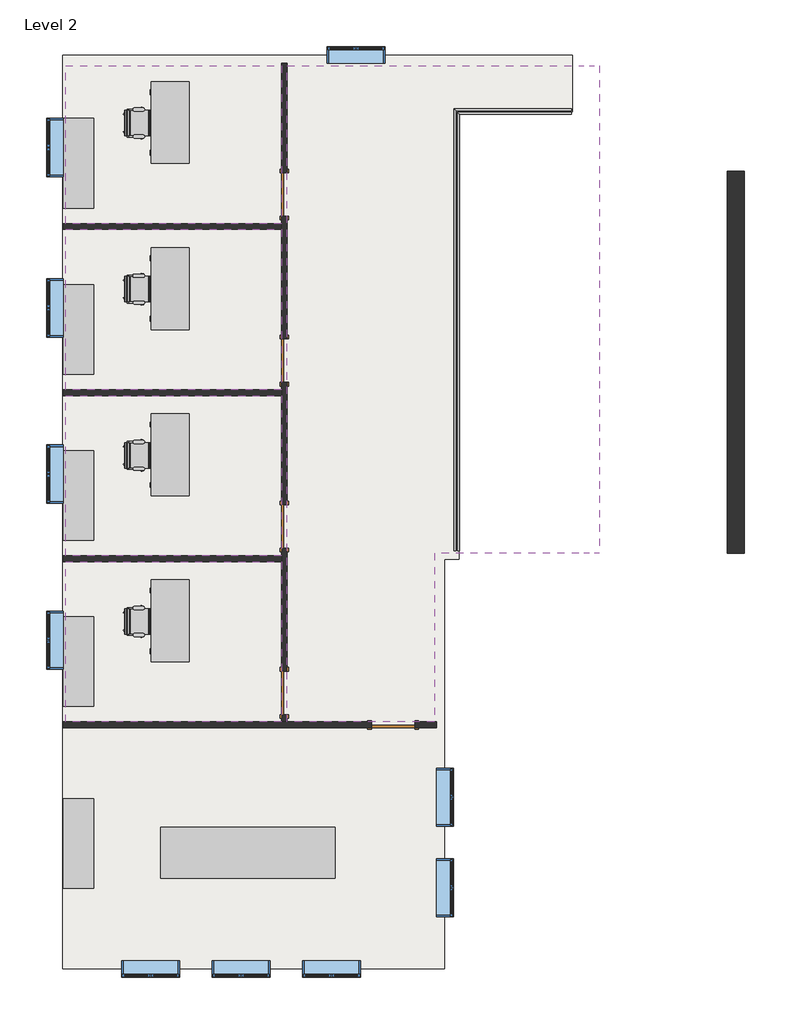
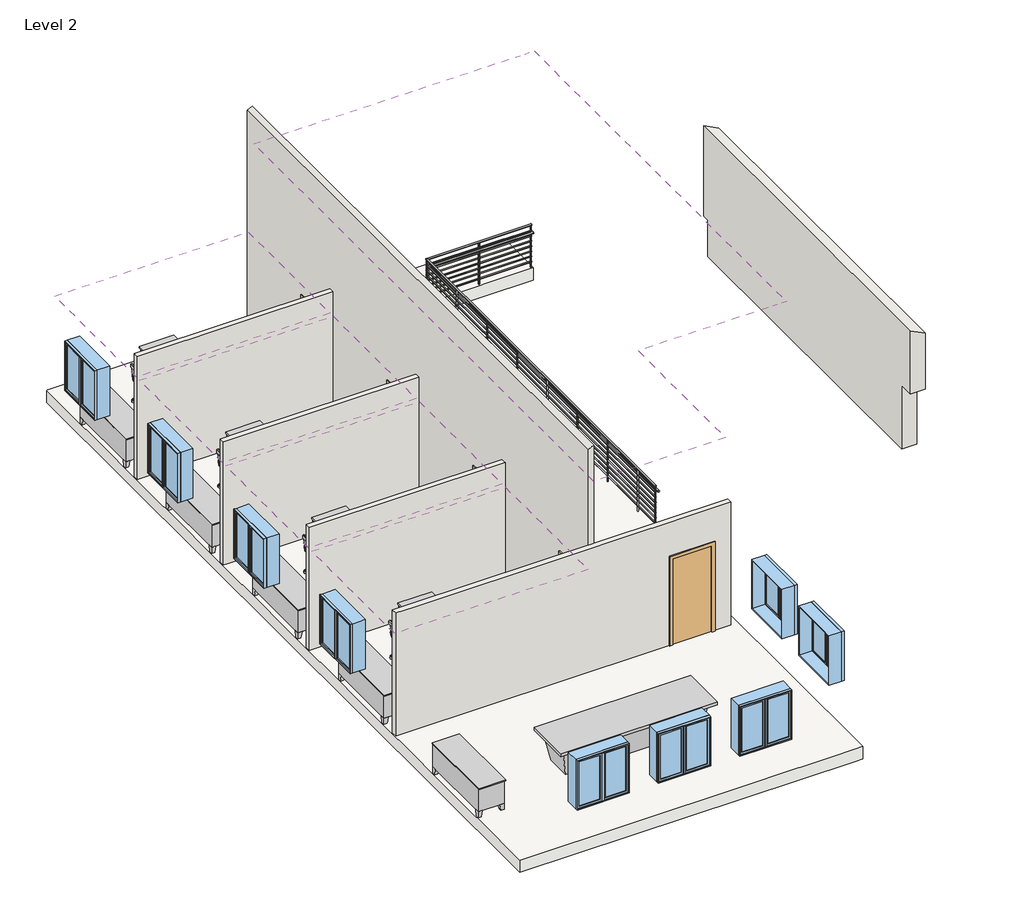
# One storey, incomplete: 14 furniture elements, 10 windows, 6 walls, 5 coverings, 5 doors, 1 railing, 1 slab.
"""IFC4 building model written with IfcOpenShell, lengths in millimetres."""

from ifc_helpers import new_model, si_unit, frame, origin, place, context, project, spatial, polyline, outline, extrude, faceted_brep, transform, mapped, element, save
from components import door_eb9f8b14, chair_task_arms_chair_task_arms_8395c10b, conference_table_complete_42_x_144_00e9c4b6, furniture_5a5a5c8e, furniture_9d33da18, guardrail_pipe_e0ddf7e3, window_75435c65

model = new_model("IFC4")

# Units and contexts
model_context = context("Model", 3, world=origin())
ifc_project = project(units=[si_unit("LENGTHUNIT", "METRE", prefix="MILLI")], contexts=[model_context])

# Site, building, storey
site = spatial("IfcSite", under=ifc_project)
building = spatial("IfcBuilding", under=site)
storey = spatial("IfcBuildingStorey", under=building, Name="Level 2", Elevation=3060.0)

# Coverings
placement = place(None, origin())
element("IfcCovering", 1, ObjectType="2' x 4' ACT System", at=placement, inside=storey, context=model_context, shape_type="SweptSolid", body=[
    extrude(outline(polyline([(-9011.7016552, 7211.1980424), (-13532.9016552, 7211.1980424), (-13532.9016552, 10517.9605424), (-9011.7016552, 10517.9605424), (-9011.7016552, 7211.1980424)])), frame((0.0, 0.0, 5498.4), z_axis=(0.0, 0.0, 1.0), x_axis=(1.0, 0.0, 0.0)), (0.0, 0.0, 1.0), 57.15),
])
element("IfcCovering", 2, ObjectType="2' x 4' ACT System", at=placement, inside=storey, context=model_context, shape_type="SweptSolid", body=[
    extrude(outline(polyline([(-9011.7016552, 3729.8105424), (-13532.9016552, 3729.8105424), (-13532.9016552, 7087.3730424), (-9011.7016552, 7087.3730424), (-9011.7016552, 3729.8105424)])), frame((0.0, 0.0, 5498.4), z_axis=(0.0, 0.0, 1.0), x_axis=(1.0, 0.0, 0.0)), (0.0, 0.0, 1.0), 57.15),
])
element("IfcCovering", 3, ObjectType="2' x 4' ACT System", at=placement, inside=storey, context=model_context, shape_type="SweptSolid", body=[
    extrude(outline(polyline([(-9011.7016552, 248.4230424), (-13532.9016552, 248.4230424), (-13532.9016552, 3605.9855424), (-9011.7016552, 3605.9855424), (-9011.7016552, 248.4230424)])), frame((0.0, 0.0, 5498.4), z_axis=(0.0, 0.0, 1.0), x_axis=(1.0, 0.0, 0.0)), (0.0, 0.0, 1.0), 57.15),
])
element("IfcCovering", 4, ObjectType="2' x 4' ACT System", at=placement, inside=storey, context=model_context, shape_type="SweptSolid", body=[
    extrude(outline(polyline([(-9011.7016552, -3232.9644576), (-13532.9016552, -3232.9644576), (-13532.9016552, 124.5980424), (-9011.7016552, 124.5980424), (-9011.7016552, -3232.9644576)])), frame((0.0, 0.0, 5498.4), z_axis=(0.0, 0.0, 1.0), x_axis=(1.0, 0.0, 0.0)), (0.0, 0.0, 1.0), 57.15),
])
element("IfcCovering", 5, ObjectType="5/8\" GWB on Mtl. Stud", at=placement, inside=storey, context=model_context, shape_type="Brep", body=[
    faceted_brep([(-2339.5447142, 10517.9605424, 7739.95), (-2772.9516552, 10517.9605424, 7739.95), (-8887.8766552, 10517.9605424, 7739.95), (-8887.8766552, -3232.9644576, 7739.95), (-5804.9516552, -3232.9644576, 7739.95), (-5804.9516552, 307.1605424, 7739.95), (-2772.9516552, 307.1605424, 7739.95), (-2339.5447142, 307.1605424, 7739.95), (-2339.5447142, 10517.9605424, 7632.0), (-2339.5447142, 307.1605424, 7632.0), (-2557.0516552, 307.1605424, 7632.0), (-5804.9516552, 307.1605424, 7632.0), (-5804.9516552, -3232.9644576, 7632.0), (-8887.8766552, -3232.9644576, 7632.0), (-8887.8766552, 10517.9605424, 7632.0), (-2557.0516552, 10517.9605424, 7632.0)], [[[0, 1, 2, 3, 4, 5, 6, 7]], [[8, 9, 10, 11, 12, 13, 14, 15]], [[2, 1, 0, 8, 15, 14]], [[3, 2, 14, 13]], [[4, 3, 13, 12]], [[5, 4, 12, 11]], [[7, 6, 5, 11, 10, 9]], [[0, 7, 9, 8]]]),
])

# Doors
door_shape = door_eb9f8b14(model_context)
element("IfcDoor", 6, ObjectType="Single-Flush : 36\" x 84\"", at=placement, inside=storey, context=model_context, shape_type="MappedRepresentation", body=[
    mapped(door_shape, transform((-6668.5516552, -3294.8769576, 3060.0), x_axis=(1.0, 0.0, 0.0), y_axis=(0.0, 1.0, 0.0), z_axis=(0.0, 0.0, 1.0))),
])
element("IfcDoor", 7, ObjectType="Single-Flush : 36\" x 84\"", at=placement, inside=storey, context=model_context, shape_type="MappedRepresentation", body=[
    mapped(door_shape, transform((-8949.7891552, -2623.3644576, 3060.0), x_axis=(0.0, -1.0, 0.0), y_axis=(1.0, 0.0, 0.0), z_axis=(0.0, 0.0, 1.0))),
])
element("IfcDoor", 8, ObjectType="Single-Flush : 36\" x 84\"", at=placement, inside=storey, context=model_context, shape_type="MappedRepresentation", body=[
    mapped(door_shape, transform((-8949.7891552, 862.7855424, 3060.0), x_axis=(0.0, -1.0, 0.0), y_axis=(1.0, 0.0, 0.0), z_axis=(0.0, 0.0, 1.0))),
])
element("IfcDoor", 9, ObjectType="Single-Flush : 36\" x 84\"", at=placement, inside=storey, context=model_context, shape_type="MappedRepresentation", body=[
    mapped(door_shape, transform((-8949.7891552, 4339.4105424, 3060.0), x_axis=(0.0, -1.0, 0.0), y_axis=(1.0, 0.0, 0.0), z_axis=(0.0, 0.0, 1.0))),
])
element("IfcDoor", 10, ObjectType="Single-Flush : 36\" x 84\"", at=placement, inside=storey, context=model_context, shape_type="MappedRepresentation", body=[
    mapped(door_shape, transform((-8949.7891552, 7820.7980424, 3060.0), x_axis=(0.0, -1.0, 0.0), y_axis=(1.0, 0.0, 0.0), z_axis=(0.0, 0.0, 1.0))),
])

# Furniture
chair_task_arms_chair_task_arms_shape = chair_task_arms_chair_task_arms_8395c10b(model_context)
element("IfcFurniture", 11, ObjectType="Chair-Task Arms : Chair-Task Arms", at=placement, inside=storey, context=model_context, shape_type="MappedRepresentation", body=[
    mapped(chair_task_arms_chair_task_arms_shape, transform((-12048.1356286, -1267.3427772, 3060.0), x_axis=(0.0, 1.0, 0.0), y_axis=(-1.0, 0.0, 0.0), z_axis=(0.0, 0.0, 1.0))),
])
element("IfcFurniture", 12, ObjectType="Chair-Task Arms : Chair-Task Arms", at=placement, inside=storey, context=model_context, shape_type="MappedRepresentation", body=[
    mapped(chair_task_arms_chair_task_arms_shape, transform((-12048.1356286, 2214.0447228, 3060.0), x_axis=(0.0, 1.0, 0.0), y_axis=(-1.0, 0.0, 0.0), z_axis=(0.0, 0.0, 1.0))),
])
element("IfcFurniture", 13, ObjectType="Chair-Task Arms : Chair-Task Arms", at=placement, inside=storey, context=model_context, shape_type="MappedRepresentation", body=[
    mapped(chair_task_arms_chair_task_arms_shape, transform((-12048.1356286, 5695.4322228, 3060.0), x_axis=(0.0, 1.0, 0.0), y_axis=(-1.0, 0.0, 0.0), z_axis=(0.0, 0.0, 1.0))),
])
element("IfcFurniture", 14, ObjectType="Chair-Task Arms : Chair-Task Arms", at=placement, inside=storey, context=model_context, shape_type="MappedRepresentation", body=[
    mapped(chair_task_arms_chair_task_arms_shape, transform((-12048.1356286, 9176.8197228, 3060.0), x_axis=(0.0, 1.0, 0.0), y_axis=(-1.0, 0.0, 0.0), z_axis=(0.0, 0.0, 1.0))),
])
conference_table_complete_42_x_144_shape = conference_table_complete_42_x_144_00e9c4b6(model_context)
element("IfcFurniture", 15, ObjectType="Conference Table-Complete : 42 x 144", at=placement, inside=storey, context=model_context, shape_type="MappedRepresentation", body=[
    mapped(conference_table_complete_42_x_144_shape, transform((-9715.5836955, -5969.8356111, 3060.0), x_axis=(1.0, 0.0, 0.0), y_axis=(0.0, 1.0, 0.0), z_axis=(0.0, 0.0, 1.0))),
])
furniture_shape = furniture_5a5a5c8e(model_context)
element("IfcFurniture", 16, ObjectType="Credenza : 72\" x 24\"", at=placement, inside=storey, context=model_context, shape_type="MappedRepresentation", body=[
    mapped(furniture_shape, transform((-13274.3213273, -1908.6485326, 3060.0), x_axis=(0.0, -1.0, 0.0), y_axis=(1.0, 0.0, 0.0), z_axis=(0.0, 0.0, 1.0))),
])
element("IfcFurniture", 17, ObjectType="Credenza : 72\" x 24\"", at=placement, inside=storey, context=model_context, shape_type="MappedRepresentation", body=[
    mapped(furniture_shape, transform((-13274.3213273, -5718.6485326, 3060.0), x_axis=(0.0, -1.0, 0.0), y_axis=(1.0, 0.0, 0.0), z_axis=(0.0, 0.0, 1.0))),
])
element("IfcFurniture", 18, ObjectType="Credenza : 72\" x 24\"", at=placement, inside=storey, context=model_context, shape_type="MappedRepresentation", body=[
    mapped(furniture_shape, transform((-13274.3213273, 1572.7389674, 3060.0), x_axis=(0.0, -1.0, 0.0), y_axis=(1.0, 0.0, 0.0), z_axis=(0.0, 0.0, 1.0))),
])
element("IfcFurniture", 19, ObjectType="Credenza : 72\" x 24\"", at=placement, inside=storey, context=model_context, shape_type="MappedRepresentation", body=[
    mapped(furniture_shape, transform((-13274.3213273, 5054.1264674, 3060.0), x_axis=(0.0, -1.0, 0.0), y_axis=(1.0, 0.0, 0.0), z_axis=(0.0, 0.0, 1.0))),
])
element("IfcFurniture", 20, ObjectType="Credenza : 72\" x 24\"", at=placement, inside=storey, context=model_context, shape_type="MappedRepresentation", body=[
    mapped(furniture_shape, transform((-13274.3213273, 8535.5139674, 3060.0), x_axis=(0.0, -1.0, 0.0), y_axis=(1.0, 0.0, 0.0), z_axis=(0.0, 0.0, 1.0))),
])
furniture_2_shape = furniture_9d33da18(model_context)
element("IfcFurniture", 21, ObjectType="Desk1 : 66\" x 30\"", at=placement, inside=storey, context=model_context, shape_type="MappedRepresentation", body=[
    mapped(furniture_2_shape, transform((-10962.389727, -275.4519576, 3060.0), x_axis=(0.0, -1.0, 0.0), y_axis=(1.0, 0.0, 0.0), z_axis=(0.0, 0.0, 1.0))),
])
element("IfcFurniture", 22, ObjectType="Desk1 : 66\" x 30\"", at=placement, inside=storey, context=model_context, shape_type="MappedRepresentation", body=[
    mapped(furniture_2_shape, transform((-10962.389727, 3205.9355424, 3060.0), x_axis=(0.0, -1.0, 0.0), y_axis=(1.0, 0.0, 0.0), z_axis=(0.0, 0.0, 1.0))),
])
element("IfcFurniture", 23, ObjectType="Desk1 : 66\" x 30\"", at=placement, inside=storey, context=model_context, shape_type="MappedRepresentation", body=[
    mapped(furniture_2_shape, transform((-10962.389727, 6687.3230424, 3060.0), x_axis=(0.0, -1.0, 0.0), y_axis=(1.0, 0.0, 0.0), z_axis=(0.0, 0.0, 1.0))),
])
element("IfcFurniture", 24, ObjectType="Desk1 : 66\" x 30\"", at=placement, inside=storey, context=model_context, shape_type="MappedRepresentation", body=[
    mapped(furniture_2_shape, transform((-10962.389727, 10168.7105424, 3060.0), x_axis=(0.0, -1.0, 0.0), y_axis=(1.0, 0.0, 0.0), z_axis=(0.0, 0.0, 1.0))),
])

# Railing
guardrail_pipe_shape = guardrail_pipe_e0ddf7e3(model_context)
element("IfcRailing", 25, ObjectType="Guardrail - Pipe", at=placement, inside=storey, context=model_context, shape_type="MappedRepresentation", body=[
    mapped(guardrail_pipe_shape, transform((0.0, 0.0, 0.0), x_axis=(1.0, 0.0, 0.0), y_axis=(0.0, 1.0, 0.0), z_axis=(0.0, 0.0, 1.0))),
])

# Slab
element("IfcSlab", 26, ObjectType="Generic - 12\"", at=placement, inside=storey, context=model_context, shape_type="Brep", body=[
    faceted_brep([(-13596.4016552, 10733.8605424, 2755.2), (-13583.7016552, 10733.8605424, 2755.2), (-5093.7516552, 10733.8605424, 2755.2), (-2909.3516552, 10733.8605424, 2755.2), (-2909.3516552, 9554.527236, 2755.2), (-5284.2516552, 9554.527236, 2755.2), (-5284.2516552, 175.3980424, 2755.2), (-5401.7266552, 175.3980424, 2755.2), (-5589.0516552, 175.3980424, 2755.2), (-5589.0516552, -8398.6894576, 2755.2), (-5754.1516552, -8398.6894576, 2755.2), (-13596.4016552, -8398.6894576, 2755.2), (-13596.4016552, -8233.5894576, 2755.2), (-13596.4016552, 10733.8605424, 3060.0), (-13596.4016552, -8233.5894576, 3060.0), (-13596.4016552, -8398.6894576, 3060.0), (-5754.1516552, -8398.6894576, 3060.0), (-5589.0516552, -8398.6894576, 3060.0), (-5589.0516552, 175.3980424, 3060.0), (-5401.7266552, 175.3980424, 3060.0), (-5284.2516552, 175.3980424, 3060.0), (-5284.2516552, 9554.527236, 3060.0), (-2909.3516552, 9554.527236, 3060.0), (-2909.3516552, 10733.8605424, 3060.0), (-5093.7516552, 10733.8605424, 3060.0), (-13583.7016552, 10733.8605424, 3060.0)], [[[0, 1, 2, 3, 4, 5, 6, 7, 8, 9, 10, 11, 12]], [[13, 14, 15, 16, 17, 18, 19, 20, 21, 22, 23, 24, 25]], [[3, 2, 1, 0, 13, 25, 24, 23]], [[4, 3, 23, 22]], [[5, 4, 22, 21]], [[6, 5, 21, 20]], [[8, 7, 6, 20, 19, 18]], [[9, 8, 18, 17]], [[11, 10, 9, 17, 16, 15]], [[0, 12, 11, 15, 14, 13]]]),
])

# Walls
element("IfcWall", 27, ObjectType="Exterior - Brick on Mtl. Stud", at=placement, inside=storey, context=model_context, shape_type="Brep", body=[
    faceted_brep([(341.8483448, 8130.3605424, 3060.0), (341.8483448, 2791.5980424, 3060.0), (341.8483448, 300.8105424, 3060.0), (341.8483448, 300.8105424, 3900.0), (341.8483448, 300.8105424, 4627.075), (341.8483448, -51.6144576, 4627.075), (341.8483448, -51.6144576, 6182.55), (341.8483448, 300.8105424, 6182.55), (341.8483448, 8306.5730424, 6182.55), (341.8483448, 8306.5730424, 3958.7375), (341.8483448, 8130.3605424, 3958.7375), (694.2733448, 8130.3605424, 3060.0), (694.2733448, 8130.3605424, 3958.7375), (694.2733448, 8306.5730424, 3958.7375), (694.2733448, 8306.5730424, 6006.3375), (694.2733448, -51.6144576, 6006.3375), (694.2733448, -51.6144576, 4627.075), (694.2733448, 300.8105424, 4627.075), (694.2733448, 300.8105424, 3060.0), (465.6733448, 8130.3605424, 3060.0), (545.0483448, 8130.3605424, 3060.0)], [[[0, 1, 2, 3, 4, 5, 6, 7, 8, 9, 10]], [[11, 12, 13, 14, 15, 16, 17, 18]], [[2, 1, 0, 19, 20, 11, 18]], [[8, 7, 6, 15, 14]], [[9, 8, 14, 13]], [[9, 13, 12, 10]], [[0, 10, 12, 11, 20, 19]], [[16, 5, 4, 17]], [[4, 3, 2, 18, 17]], [[6, 5, 16, 15]]]),
])
element("IfcWall", 28, ObjectType="Interior - 4 7/8\" Partition (1-hr)", at=placement, inside=storey, context=model_context, shape_type="Brep", body=[
    faceted_brep([(-8887.8766552, 4796.6105424, 3060.0), (-8887.8766552, 7363.5980424, 3060.0), (-8887.8766552, 7363.5980424, 5193.6), (-8887.8766552, 8277.9980424, 5193.6), (-8887.8766552, 8277.9980424, 3060.0), (-8887.8766552, 10568.7605424, 3060.0), (-8887.8766552, 10568.7605424, 8530.4625), (-8887.8766552, -3232.9644576, 8530.4625), (-8887.8766552, -3232.9644576, 3060.0), (-8887.8766552, -3080.5644576, 3060.0), (-8887.8766552, -3080.5644576, 5193.6), (-8887.8766552, -2166.1644576, 5193.6), (-8887.8766552, -2166.1644576, 3060.0), (-8887.8766552, 405.5855424, 3060.0), (-8887.8766552, 405.5855424, 5193.6), (-8887.8766552, 1319.9855424, 5193.6), (-8887.8766552, 1319.9855424, 3060.0), (-8887.8766552, 3882.2105424, 3060.0), (-8887.8766552, 3882.2105424, 5193.6), (-8887.8766552, 4796.6105424, 5193.6), (-9011.7016552, 7363.5980424, 5193.6), (-9011.7016552, 7363.5980424, 3060.0), (-9011.7016552, 7211.1980424, 3060.0), (-9011.7016552, 7087.3730424, 3060.0), (-9011.7016552, 4796.6105424, 3060.0), (-9011.7016552, 4796.6105424, 5193.6), (-9011.7016552, 3882.2105424, 5193.6), (-9011.7016552, 3882.2105424, 3060.0), (-9011.7016552, 3729.8105424, 3060.0), (-9011.7016552, 3605.9855424, 3060.0), (-9011.7016552, 1319.9855424, 3060.0), (-9011.7016552, 1319.9855424, 5193.6), (-9011.7016552, 405.5855424, 5193.6), (-9011.7016552, 405.5855424, 3060.0), (-9011.7016552, 248.4230424, 3060.0), (-9011.7016552, 124.5980424, 3060.0), (-9011.7016552, -2166.1644576, 3060.0), (-9011.7016552, -2166.1644576, 5193.6), (-9011.7016552, -3080.5644576, 5193.6), (-9011.7016552, -3080.5644576, 3060.0), (-9011.7016552, -3232.9644576, 3060.0), (-9011.7016552, -3232.9644576, 8468.55), (-9011.7016552, 10568.7605424, 8468.55), (-9011.7016552, 10568.7605424, 3060.0), (-9011.7016552, 8277.9980424, 3060.0), (-9011.7016552, 8277.9980424, 5193.6)], [[[0, 1, 2, 3, 4, 5, 6, 7, 8, 9, 10, 11, 12, 13, 14, 15, 16, 17, 18, 19]], [[20, 21, 22, 23, 24, 25, 26, 27, 28, 29, 30, 31, 32, 33, 34, 35, 36, 37, 38, 39, 40, 41, 42, 43, 44, 45]], [[40, 39, 9, 8]], [[36, 35, 34, 33, 13, 12]], [[30, 29, 28, 27, 17, 16]], [[44, 43, 5, 4]], [[24, 23, 22, 21, 1, 0]], [[8, 7, 41, 40]], [[10, 9, 39, 38]], [[11, 10, 38, 37]], [[12, 11, 37, 36]], [[14, 13, 33, 32]], [[15, 14, 32, 31]], [[16, 15, 31, 30]], [[18, 17, 27, 26]], [[19, 18, 26, 25]], [[0, 19, 25, 24]], [[2, 1, 21, 20]], [[3, 2, 20, 45]], [[4, 3, 45, 44]], [[7, 6, 42, 41]], [[6, 5, 43, 42]]]),
])
element("IfcWall", 29, ObjectType="Interior - 4 7/8\" Partition (1-hr)", at=placement, inside=storey, context=model_context, shape_type="Brep", body=[
    faceted_brep([(-6211.3516552, -3356.7894576, 5193.6), (-6211.3516552, -3356.7894576, 3060.0), (-5754.1516552, -3356.7894576, 3060.0), (-5754.1516552, -3356.7894576, 6100.0), (-13170.9516552, -3356.7894576, 6100.0), (-13583.7016552, -3356.7894576, 6100.0), (-13583.7016552, -3356.7894576, 3060.0), (-13170.9516552, -3356.7894576, 3060.0), (-7125.7516552, -3356.7894576, 3060.0), (-7125.7516552, -3356.7894576, 5193.6), (-5754.1516552, -3232.9644576, 3060.0), (-6211.3516552, -3232.9644576, 3060.0), (-6211.3516552, -3232.9644576, 5193.6), (-7125.7516552, -3232.9644576, 5193.6), (-7125.7516552, -3232.9644576, 3060.0), (-8887.8766552, -3232.9644576, 3060.0), (-9011.7016552, -3232.9644576, 3060.0), (-13170.9516552, -3232.9644576, 3060.0), (-13583.7016552, -3232.9644576, 3060.0), (-13583.7016552, -3232.9644576, 6100.0), (-13170.9516552, -3232.9644576, 6100.0), (-5754.1516552, -3232.9644576, 6100.0)], [[[0, 1, 2, 3, 4, 5, 6, 7, 8, 9]], [[10, 11, 12, 13, 14, 15, 16, 17, 18, 19, 20, 21]], [[2, 1, 11, 10]], [[8, 7, 6, 18, 17, 16, 15, 14]], [[5, 4, 3, 21, 20, 19]], [[12, 11, 1, 0]], [[13, 12, 0, 9]], [[14, 13, 9, 8]], [[3, 2, 10, 21]], [[6, 5, 19, 18]]]),
])
element("IfcWall", 30, ObjectType="Interior - 4 7/8\" Partition (1-hr)", at=placement, inside=storey, context=model_context, shape_type="SweptSolid", body=[
    extrude(outline(polyline([(-9011.7016552, 124.5980424), (-13583.7016552, 124.5980424), (-13583.7016552, 248.4230424), (-9011.7016552, 248.4230424), (-9011.7016552, 124.5980424)])), frame((0.0, 0.0, 3060.0), z_axis=(0.0, 0.0, 1.0), x_axis=(1.0, 0.0, 0.0)), (0.0, 0.0, 1.0), 3040.0),
])
element("IfcWall", 31, ObjectType="Interior - 4 7/8\" Partition (1-hr)", at=placement, inside=storey, context=model_context, shape_type="Brep", body=[
    faceted_brep([(-13583.7016552, 3605.9855424, 3060.0), (-13170.9516552, 3605.9855424, 3060.0), (-9011.7016552, 3605.9855424, 3060.0), (-9011.7016552, 3605.9855424, 6100.0), (-13170.9516552, 3605.9855424, 6100.0), (-13583.7016552, 3605.9855424, 6100.0), (-13583.7016552, 3729.8105424, 3060.0), (-13583.7016552, 3729.8105424, 6100.0), (-13170.9516552, 3729.8105424, 6100.0), (-9011.7016552, 3729.8105424, 6100.0), (-9011.7016552, 3729.8105424, 3060.0), (-13170.9516552, 3729.8105424, 3060.0)], [[[0, 1, 2, 3, 4, 5]], [[6, 7, 8, 9, 10, 11]], [[2, 1, 0, 6, 11, 10]], [[5, 4, 3, 9, 8, 7]], [[3, 2, 10, 9]], [[0, 5, 7, 6]]]),
])
element("IfcWall", 32, ObjectType="Interior - 4 7/8\" Partition (1-hr)", at=placement, inside=storey, context=model_context, shape_type="SweptSolid", body=[
    extrude(outline(polyline([(-9011.7016552, 7087.3730424), (-13583.7016552, 7087.3730424), (-13583.7016552, 7211.1980424), (-9011.7016552, 7211.1980424), (-9011.7016552, 7087.3730424)])), frame((0.0, 0.0, 3060.0), z_axis=(0.0, 0.0, 1.0), x_axis=(1.0, 0.0, 0.0)), (0.0, 0.0, 1.0), 3040.0),
])

# Windows
window_shape = window_75435c65(model_context)
element("IfcWindow", 33, ObjectType="Casement Double : 48\" x 48\"", at=placement, inside=storey, context=model_context, shape_type="MappedRepresentation", body=[
    mapped(window_shape, transform((-13740.8641552, -1519.2582076, 3060.0), x_axis=(0.0, 1.0, 0.0), y_axis=(-1.0, 0.0, 0.0), z_axis=(0.0, 0.0, 1.0))),
])
element("IfcWindow", 34, ObjectType="Casement Double : 48\" x 48\"", at=placement, inside=storey, context=model_context, shape_type="MappedRepresentation", body=[
    mapped(window_shape, transform((-13740.8641552, 1962.1292924, 3060.0), x_axis=(0.0, 1.0, 0.0), y_axis=(-1.0, 0.0, 0.0), z_axis=(0.0, 0.0, 1.0))),
])
element("IfcWindow", 35, ObjectType="Casement Double : 48\" x 48\"", at=placement, inside=storey, context=model_context, shape_type="MappedRepresentation", body=[
    mapped(window_shape, transform((-13740.8641552, 5443.5167924, 3060.0), x_axis=(0.0, 1.0, 0.0), y_axis=(-1.0, 0.0, 0.0), z_axis=(0.0, 0.0, 1.0))),
])
element("IfcWindow", 36, ObjectType="Casement Double : 48\" x 48\"", at=placement, inside=storey, context=model_context, shape_type="MappedRepresentation", body=[
    mapped(window_shape, transform((-13740.8641552, 8805.0480424, 3060.0), x_axis=(0.0, 1.0, 0.0), y_axis=(-1.0, 0.0, 0.0), z_axis=(0.0, 0.0, 1.0))),
])
element("IfcWindow", 37, ObjectType="Casement Double : 48\" x 48\"", at=placement, inside=storey, context=model_context, shape_type="MappedRepresentation", body=[
    mapped(window_shape, transform((-11754.9016552, -8390.7519576, 3060.0), x_axis=(-1.0, 0.0, 0.0), y_axis=(0.0, -1.0, 0.0), z_axis=(0.0, 0.0, 1.0))),
])
element("IfcWindow", 38, ObjectType="Casement Double : 48\" x 48\"", at=placement, inside=storey, context=model_context, shape_type="MappedRepresentation", body=[
    mapped(window_shape, transform((-9856.2516552, -8390.7519576, 3060.0), x_axis=(-1.0, 0.0, 0.0), y_axis=(0.0, -1.0, 0.0), z_axis=(0.0, 0.0, 1.0))),
])
element("IfcWindow", 39, ObjectType="Casement Double : 48\" x 48\"", at=placement, inside=storey, context=model_context, shape_type="MappedRepresentation", body=[
    mapped(window_shape, transform((-7957.6016552, -8390.7519576, 3060.0), x_axis=(-1.0, 0.0, 0.0), y_axis=(0.0, -1.0, 0.0), z_axis=(0.0, 0.0, 1.0))),
])
element("IfcWindow", 40, ObjectType="Casement Double : 48\" x 48\"", at=placement, inside=storey, context=model_context, shape_type="MappedRepresentation", body=[
    mapped(window_shape, transform((-5596.9891552, -6709.5894576, 3060.0), x_axis=(0.0, -1.0, 0.0), y_axis=(1.0, 0.0, 0.0), z_axis=(0.0, 0.0, 1.0))),
])
element("IfcWindow", 41, ObjectType="Casement Double : 48\" x 48\"", at=placement, inside=storey, context=model_context, shape_type="MappedRepresentation", body=[
    mapped(window_shape, transform((-5596.9891552, -4810.9394576, 3060.0), x_axis=(0.0, -1.0, 0.0), y_axis=(1.0, 0.0, 0.0), z_axis=(0.0, 0.0, 1.0))),
])
element("IfcWindow", 42, ObjectType="Casement Double : 48\" x 48\"", at=placement, inside=storey, context=model_context, shape_type="MappedRepresentation", body=[
    mapped(window_shape, transform((-7446.4266552, 10725.9230424, 3060.0), x_axis=(1.0, 0.0, 0.0), y_axis=(0.0, 1.0, 0.0), z_axis=(0.0, 0.0, 1.0))),
])

save(model, "model.ifc")
